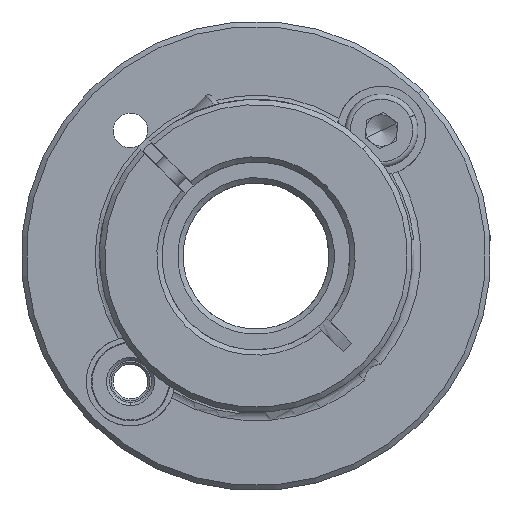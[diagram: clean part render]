
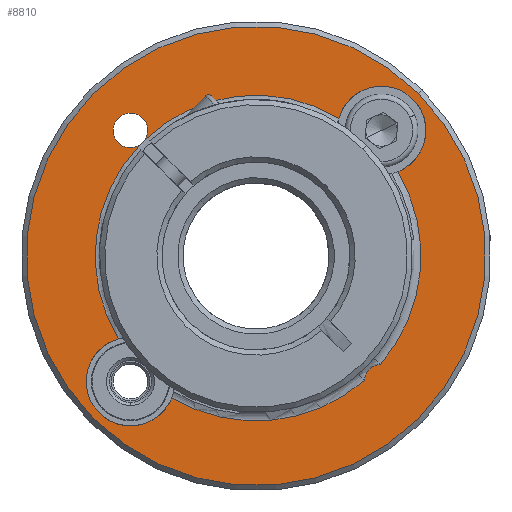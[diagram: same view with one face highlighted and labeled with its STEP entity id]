
A CAD part, front view. The second image highlights one B-rep face of the part: STEP entity #8810.
In plain terms, the highlighted planar face has unit normal (0, -1, 0).
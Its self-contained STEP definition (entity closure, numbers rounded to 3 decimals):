
#21 = DIRECTION ( 'NONE',  ( 0., 1., 0. ) ) ;
#112 = AXIS2_PLACEMENT_3D ( 'NONE', #8486, #8603, #7843 ) ;
#127 = EDGE_LOOP ( 'NONE', ( #1106, #6655, #3617, #2026, #5720, #951, #4338, #4254, #923, #1594, #6930, #7326 ) ) ;
#134 = VERTEX_POINT ( 'NONE', #9755 ) ;
#158 = AXIS2_PLACEMENT_3D ( 'NONE', #1562, #3106, #3034 ) ;
#264 = EDGE_CURVE ( 'NONE', #1735, #658, #5931, .T. ) ;
#407 = VERTEX_POINT ( 'NONE', #2034 ) ;
#422 = AXIS2_PLACEMENT_3D ( 'NONE', #8739, #2625, #8773 ) ;
#465 = PLANE ( 'NONE',  #8487 ) ;
#593 = CARTESIAN_POINT ( 'NONE',  ( 10.304, -8.743, 63.176 ) ) ;
#602 = DIRECTION ( 'NONE',  ( 0., -1., 0. ) ) ;
#619 = CIRCLE ( 'NONE', #7724, 4.25 ) ;
#658 = VERTEX_POINT ( 'NONE', #7805 ) ;
#744 = EDGE_CURVE ( 'NONE', #3956, #1735, #8262, .T. ) ;
#861 = VERTEX_POINT ( 'NONE', #7868 ) ;
#923 = ORIENTED_EDGE ( 'NONE', *, *, #8714, .T. ) ;
#951 = ORIENTED_EDGE ( 'NONE', *, *, #4942, .T. ) ;
#992 = CARTESIAN_POINT ( 'NONE',  ( 15.952, -8.743, 58.048 ) ) ;
#1066 = CARTESIAN_POINT ( 'NONE',  ( 2.367, -8.743, 49.979 ) ) ;
#1106 = ORIENTED_EDGE ( 'NONE', *, *, #8720, .T. ) ;
#1130 = AXIS2_PLACEMENT_3D ( 'NONE', #1066, #4090, #4059 ) ;
#1135 = DIRECTION ( 'NONE',  ( 0., 1., 0. ) ) ;
#1150 = CIRCLE ( 'NONE', #9693, 15.4 ) ;
#1273 = FACE_OUTER_BOUND ( 'NONE', #7456, .T. ) ;
#1434 = EDGE_CURVE ( 'NONE', #407, #9675, #619, .T. ) ;
#1445 = CARTESIAN_POINT ( 'NONE',  ( 17.924, -8.743, 65.536 ) ) ;
#1490 = VERTEX_POINT ( 'NONE', #4534 ) ;
#1562 = CARTESIAN_POINT ( 'NONE',  ( 2.367, -8.743, 49.979 ) ) ;
#1587 = AXIS2_PLACEMENT_3D ( 'NONE', #3352, #2546, #4078 ) ;
#1594 = ORIENTED_EDGE ( 'NONE', *, *, #5472, .T. ) ;
#1735 = VERTEX_POINT ( 'NONE', #8968 ) ;
#2026 = ORIENTED_EDGE ( 'NONE', *, *, #744, .T. ) ;
#2034 = CARTESIAN_POINT ( 'NONE',  ( 17.393, -8.743, 65.005 ) ) ;
#2077 = CIRCLE ( 'NONE', #112, 1.65 ) ;
#2169 = EDGE_CURVE ( 'NONE', #861, #134, #4736, .T. ) ;
#2209 = CIRCLE ( 'NONE', #3382, 15.8 ) ;
#2488 = EDGE_CURVE ( 'NONE', #2766, #3956, #4387, .T. ) ;
#2537 = CARTESIAN_POINT ( 'NONE',  ( -13.189, -8.743, 34.423 ) ) ;
#2546 = DIRECTION ( 'NONE',  ( 0., 1., 0. ) ) ;
#2625 = DIRECTION ( 'NONE',  ( 0., -1., 0. ) ) ;
#2677 = DIRECTION ( 'NONE',  ( 0., 1., 0. ) ) ;
#2750 = AXIS2_PLACEMENT_3D ( 'NONE', #5736, #7152, #8762 ) ;
#2754 = DIRECTION ( 'NONE',  ( 0.707, 0., 0.707 ) ) ;
#2766 = VERTEX_POINT ( 'NONE', #5848 ) ;
#2932 = AXIS2_PLACEMENT_3D ( 'NONE', #4196, #9460, #4981 ) ;
#2952 = DIRECTION ( 'NONE',  ( 0., 1., 0. ) ) ;
#3034 = DIRECTION ( 'NONE',  ( 0.707, 0., 0.707 ) ) ;
#3106 = DIRECTION ( 'NONE',  ( 0., -1., 0. ) ) ;
#3352 = CARTESIAN_POINT ( 'NONE',  ( -9.653, -8.743, 37.958 ) ) ;
#3382 = AXIS2_PLACEMENT_3D ( 'NONE', #5069, #2677, #5860 ) ;
#3386 = VERTEX_POINT ( 'NONE', #2537 ) ;
#3440 = EDGE_CURVE ( 'NONE', #5291, #3386, #7806, .T. ) ;
#3447 = CIRCLE ( 'NONE', #6818, 1.65 ) ;
#3617 = ORIENTED_EDGE ( 'NONE', *, *, #2488, .T. ) ;
#3928 = AXIS2_PLACEMENT_3D ( 'NONE', #6585, #7744, #8638 ) ;
#3956 = VERTEX_POINT ( 'NONE', #8856 ) ;
#4059 = DIRECTION ( 'NONE',  ( 0.707, 0., 0.707 ) ) ;
#4078 = DIRECTION ( 'NONE',  ( 0.707, 0., 0.707 ) ) ;
#4090 = DIRECTION ( 'NONE',  ( 0., 1., 0. ) ) ;
#4196 = CARTESIAN_POINT ( 'NONE',  ( 2.367, -8.743, 49.979 ) ) ;
#4254 = ORIENTED_EDGE ( 'NONE', *, *, #8530, .T. ) ;
#4277 = CIRCLE ( 'NONE', #158, 22. ) ;
#4338 = ORIENTED_EDGE ( 'NONE', *, *, #2169, .T. ) ;
#4387 = CIRCLE ( 'NONE', #1587, 4.25 ) ;
#4499 = DIRECTION ( 'NONE',  ( 0.707, 0., 0.707 ) ) ;
#4534 = CARTESIAN_POINT ( 'NONE',  ( 12.742, -8.743, 38.062 ) ) ;
#4595 = CARTESIAN_POINT ( 'NONE',  ( 14.388, -8.743, 62. ) ) ;
#4607 = DIRECTION ( 'NONE',  ( 0., 1., 0. ) ) ;
#4692 = FACE_BOUND ( 'NONE', #127, .T. ) ;
#4736 = CIRCLE ( 'NONE', #8500, 1.65 ) ;
#4768 = AXIS2_PLACEMENT_3D ( 'NONE', #8324, #4607, #6850 ) ;
#4897 = CARTESIAN_POINT ( 'NONE',  ( -9.653, -8.743, 62. ) ) ;
#4942 = EDGE_CURVE ( 'NONE', #658, #861, #3447, .T. ) ;
#4981 = DIRECTION ( 'NONE',  ( 0.707, 0., 0.707 ) ) ;
#5029 = CIRCLE ( 'NONE', #2932, 15.8 ) ;
#5069 = CARTESIAN_POINT ( 'NONE',  ( 2.367, -8.743, 49.979 ) ) ;
#5291 = VERTEX_POINT ( 'NONE', #1445 ) ;
#5397 = EDGE_CURVE ( 'NONE', #3386, #5291, #4277, .T. ) ;
#5472 = EDGE_CURVE ( 'NONE', #6435, #407, #6610, .T. ) ;
#5582 = VERTEX_POINT ( 'NONE', #6205 ) ;
#5614 = DIRECTION ( 'NONE',  ( 0., 1., 0. ) ) ;
#5720 = ORIENTED_EDGE ( 'NONE', *, *, #264, .T. ) ;
#5736 = CARTESIAN_POINT ( 'NONE',  ( -9.653, -8.743, 37.958 ) ) ;
#5771 = CARTESIAN_POINT ( 'NONE',  ( 14.285, -8.743, 39.605 ) ) ;
#5848 = CARTESIAN_POINT ( 'NONE',  ( -5.701, -8.743, 36.395 ) ) ;
#5860 = DIRECTION ( 'NONE',  ( 0.707, 0., 0.707 ) ) ;
#5931 = CIRCLE ( 'NONE', #1130, 15.4 ) ;
#6116 = CARTESIAN_POINT ( 'NONE',  ( -9.653, -8.743, 62. ) ) ;
#6205 = CARTESIAN_POINT ( 'NONE',  ( -8.247, -8.743, 61.137 ) ) ;
#6313 = CIRCLE ( 'NONE', #422, 1.65 ) ;
#6338 = ORIENTED_EDGE ( 'NONE', *, *, #3440, .T. ) ;
#6435 = VERTEX_POINT ( 'NONE', #593 ) ;
#6585 = CARTESIAN_POINT ( 'NONE',  ( 2.367, -8.743, 49.979 ) ) ;
#6610 = CIRCLE ( 'NONE', #4768, 4.25 ) ;
#6655 = ORIENTED_EDGE ( 'NONE', *, *, #7708, .T. ) ;
#6758 = DIRECTION ( 'NONE',  ( 0.707, 0., 0.707 ) ) ;
#6818 = AXIS2_PLACEMENT_3D ( 'NONE', #6116, #21, #6758 ) ;
#6850 = DIRECTION ( 'NONE',  ( 0.707, 0., 0.707 ) ) ;
#6930 = ORIENTED_EDGE ( 'NONE', *, *, #1434, .T. ) ;
#7007 = DIRECTION ( 'NONE',  ( 0.707, 0., 0.707 ) ) ;
#7152 = DIRECTION ( 'NONE',  ( 0., 1., 0. ) ) ;
#7262 = CARTESIAN_POINT ( 'NONE',  ( 2.367, -8.743, 49.979 ) ) ;
#7322 = VERTEX_POINT ( 'NONE', #5771 ) ;
#7326 = ORIENTED_EDGE ( 'NONE', *, *, #8765, .T. ) ;
#7392 = CARTESIAN_POINT ( 'NONE',  ( 14.388, -8.743, 37.958 ) ) ;
#7456 = EDGE_LOOP ( 'NONE', ( #7752, #6338 ) ) ;
#7708 = EDGE_CURVE ( 'NONE', #1490, #2766, #2209, .T. ) ;
#7724 = AXIS2_PLACEMENT_3D ( 'NONE', #4595, #2952, #4499 ) ;
#7744 = DIRECTION ( 'NONE',  ( 0., -1., 0. ) ) ;
#7752 = ORIENTED_EDGE ( 'NONE', *, *, #5397, .T. ) ;
#7805 = CARTESIAN_POINT ( 'NONE',  ( -8.79, -8.743, 60.594 ) ) ;
#7806 = CIRCLE ( 'NONE', #3928, 22. ) ;
#7843 = DIRECTION ( 'NONE',  ( 0.707, 0., 0.707 ) ) ;
#7868 = CARTESIAN_POINT ( 'NONE',  ( -10.82, -8.743, 60.833 ) ) ;
#8262 = CIRCLE ( 'NONE', #2750, 4.25 ) ;
#8324 = CARTESIAN_POINT ( 'NONE',  ( 14.388, -8.743, 62. ) ) ;
#8486 = CARTESIAN_POINT ( 'NONE',  ( -9.653, -8.743, 62. ) ) ;
#8487 = AXIS2_PLACEMENT_3D ( 'NONE', #7392, #602, #9668 ) ;
#8500 = AXIS2_PLACEMENT_3D ( 'NONE', #4897, #5614, #7007 ) ;
#8530 = EDGE_CURVE ( 'NONE', #134, #5582, #2077, .T. ) ;
#8603 = DIRECTION ( 'NONE',  ( 0., 1., 0. ) ) ;
#8638 = DIRECTION ( 'NONE',  ( 0.707, 0., 0.707 ) ) ;
#8714 = EDGE_CURVE ( 'NONE', #5582, #6435, #1150, .T. ) ;
#8720 = EDGE_CURVE ( 'NONE', #7322, #1490, #6313, .T. ) ;
#8739 = CARTESIAN_POINT ( 'NONE',  ( 14.388, -8.743, 37.958 ) ) ;
#8762 = DIRECTION ( 'NONE',  ( 0.707, 0., 0.707 ) ) ;
#8765 = EDGE_CURVE ( 'NONE', #9675, #7322, #5029, .T. ) ;
#8773 = DIRECTION ( 'NONE',  ( 0., 0., -1. ) ) ;
#8810 = ADVANCED_FACE ( 'NONE', ( #4692, #1273 ), #465, .T. ) ;
#8856 = CARTESIAN_POINT ( 'NONE',  ( -12.659, -8.743, 34.953 ) ) ;
#8968 = CARTESIAN_POINT ( 'NONE',  ( -10.83, -8.743, 42.042 ) ) ;
#9460 = DIRECTION ( 'NONE',  ( 0., 1., 0. ) ) ;
#9668 = DIRECTION ( 'NONE',  ( -0.989, 0., -0.145 ) ) ;
#9675 = VERTEX_POINT ( 'NONE', #992 ) ;
#9693 = AXIS2_PLACEMENT_3D ( 'NONE', #7262, #1135, #2754 ) ;
#9755 = CARTESIAN_POINT ( 'NONE',  ( -8.487, -8.743, 63.167 ) ) ;
